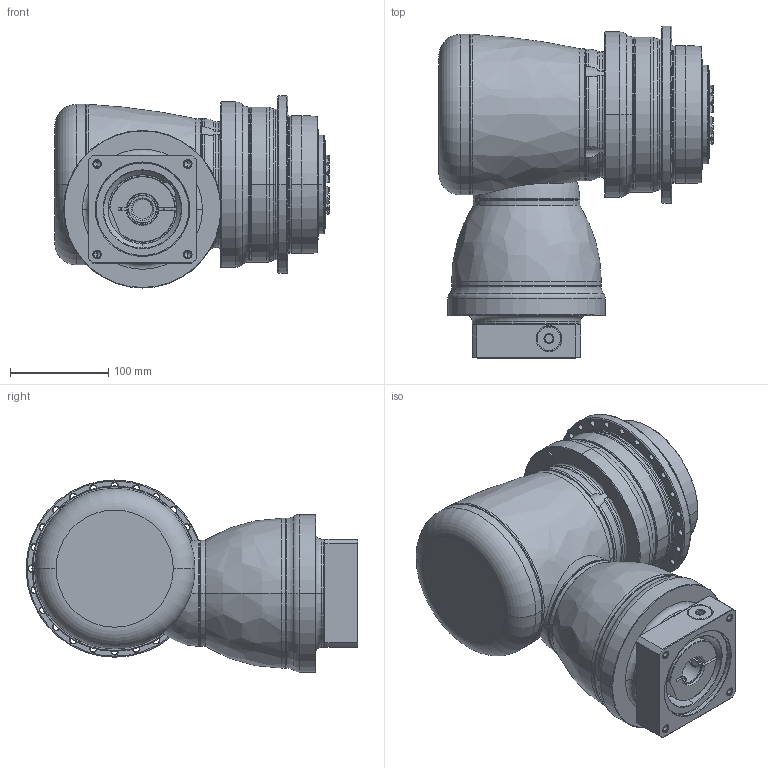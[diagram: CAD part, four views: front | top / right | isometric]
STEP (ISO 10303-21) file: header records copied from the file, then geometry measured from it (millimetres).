
FILE_DESCRIPTION((''),'2;1');
FILE_NAME('APCK140_2ST_28-P0409610201_ASM','2018-05-09T',('d01226'),(''),'PRO/ENGINEER BY PARAMETRIC TECHNOLOGY CORPORATION, 2008410','PRO/ENGINEER BY PARAMETRIC TECHNOLOGY CORPORATION, 2008410','');
FILE_SCHEMA(('CONFIG_CONTROL_DESIGN'));
Length unit declared in the file: millimetre
Products named in the file (13): P1008500002; P1802510011; P0278501003; P03595D0103; P1211500001; P1315500001; P1007501001; P1318501101; P0409610201; P0503600010; P0912551001; 21711418017; APCK140_2ST_28-P0409610201_ASM
Assembly tree (12 placements, depth 2):
  APCK140_2ST_28-P0409610201_ASM
    P1008500002
    P1802510011
    P0278501003
    P03595D0103
    P1211500001
    P1315500001
    P1007501001
    P1318501101
    P0409610201
    P0503600010
    P0912551001
    21711418017
Bounding box: 278.6 x 337 x 195 mm (x, y, z)
Volume: 7295685.4 mm3; surface area: 648688.5 mm2
Topology: 13 solids, 23 shells, 792 faces, 1880 edges, 1158 vertices
Faces by surface type: cylinder 264, cone 229, plane 145, torus 133, bspline 19, sphere 2
Entity records: 29273 total; most frequent: CARTESIAN_POINT 10381, DIRECTION 4240, ORIENTED_EDGE 3690, EDGE_CURVE 1866, AXIS2_PLACEMENT_3D 1855, VERTEX_POINT 1158, CIRCLE 1047, EDGE_LOOP 914
